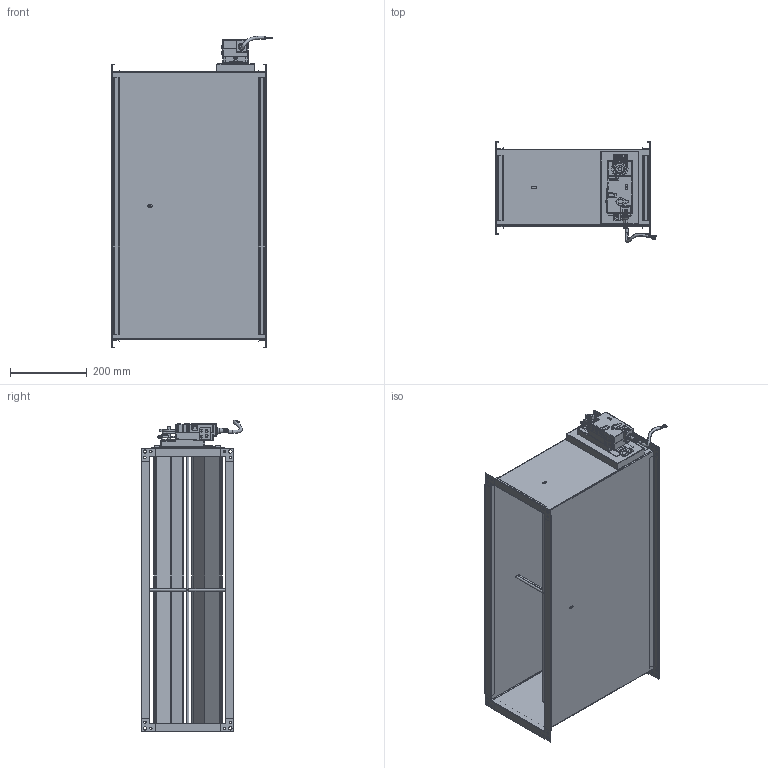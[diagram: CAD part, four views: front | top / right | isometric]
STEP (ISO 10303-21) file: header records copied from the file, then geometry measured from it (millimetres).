
FILE_DESCRIPTION (( 'STEP AP214' ), '1' );
FILE_NAME ('VAV-S700200.STEP', '2025-05-08T11:41:33', ( '' ), ( '' ), 'SwSTEP 2.0', 'SolidWorks 2025', '' );
FILE_SCHEMA (( 'AUTOMOTIVE_DESIGN' ));
Length unit declared in the file: millimetre
Products named in the file (1): VAV-S700200
Bounding box: 419.75 x 263.59 x 813.69 mm (x, y, z)
Surface area: 2539112.5 mm2 (no closed solid volume)
Topology: 0 solids, 48 shells, 2034 faces, 5292 edges, 3364 vertices
Faces by surface type: plane 1515, cylinder 466, bspline 24, sphere 18, cone 10, torus 1
Full cylindrical faces by diameter (mm): 1 x4, 6 x17, 8 x1, 9 x8, 11 x1, 20 x1, 21 x2
Entity records: 89904 total; most frequent: CARTESIAN_POINT 41262, ORIENTED_EDGE 10369, DIRECTION 6536, EDGE_CURVE 5208, VERTEX_POINT 3337, B_SPLINE_CURVE_WITH_KNOTS 3170, AXIS2_PLACEMENT_3D 2499, EDGE_LOOP 2234
